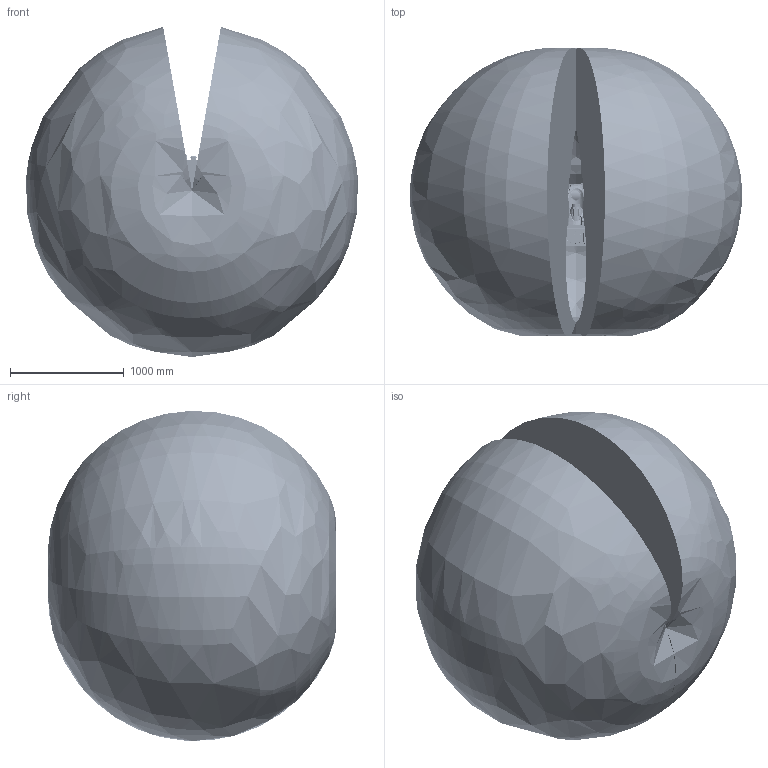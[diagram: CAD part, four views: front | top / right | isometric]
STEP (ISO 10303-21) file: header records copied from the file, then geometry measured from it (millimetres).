
FILE_DESCRIPTION((''),'2;1');
FILE_NAME('R6-1400H-B_ASM','2023-10-14T15:42:04',('zty'),(''),'CREO PARAMETRIC BY PTC INC, 2018260','CREO PARAMETRIC BY PTC INC, 2018260','');
FILE_SCHEMA(('CONFIG_CONTROL_DESIGN','SHAPE_APPEARANCE_LAYERS_GROUPS'));
Products named in the file (10): R6-1400H-B_BASE; R6-1400H-B_JOINT1; R6-1400H-B_JOINT2; R6-1400H-B_JOINT3; R6-1400H-B_JOINT4; R6-1400H-B_JOINT5; R6-1400H-B_JOINT6; R6-1400H-B_RANGE; R6-1400H-B_RANGE_2; R6-1400H-B_ASM
Assembly tree (9 placements, depth 2):
  R6-1400H-B_ASM
    R6-1400H-B_BASE
    R6-1400H-B_JOINT1
    R6-1400H-B_JOINT2
    R6-1400H-B_JOINT3
    R6-1400H-B_JOINT4
    R6-1400H-B_JOINT5
    R6-1400H-B_JOINT6
    R6-1400H-B_RANGE
    R6-1400H-B_RANGE_2
Bounding box: 2914.87 x 2535.11 x 2898.85 mm (x, y, z)
Volume: 10689516235.8 mm3; surface area: 42513583.8 mm2
Topology: 9 solids, 102 shells, 13921 faces, 35550 edges, 21750 vertices
Faces by surface type: cylinder 4696, plane 3466, bspline 2747, torus 1917, cone 751, sphere 344
Entity records: 586589 total; most frequent: CARTESIAN_POINT 247117, ORIENTED_EDGE 70086, DIRECTION 62739, EDGE_CURVE 35043, AXIS2_PLACEMENT_3D 25201, VERTEX_POINT 21750, EDGE_LOOP 14625, CIRCLE 14008
